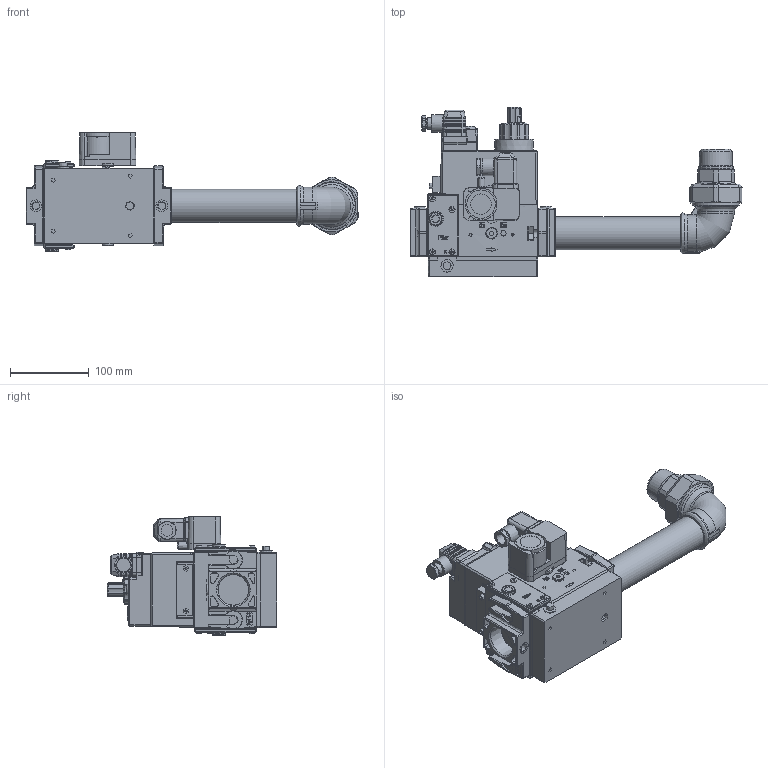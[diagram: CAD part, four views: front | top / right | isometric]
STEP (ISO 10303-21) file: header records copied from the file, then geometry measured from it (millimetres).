
FILE_DESCRIPTION (( 'STEP AP214' ), '1' );
FILE_NAME ('19990557.STEP', '2022-12-16T10:06:25', ( '' ), ( '' ), 'SwSTEP 2.0', 'SolidWorks 2021', '' );
FILE_SCHEMA (( 'AUTOMOTIVE_DESIGN' ));
Length unit declared in the file: millimetre
Products named in the file (1): 19990557
Bounding box: 421.9 x 215 x 150.2 mm (x, y, z)
Surface area: 319941.5 mm2 (no closed solid volume)
Topology: 0 solids, 14 shells, 3240 faces, 8197 edges, 5189 vertices
Faces by surface type: plane 1532, bspline 816, cylinder 633, cone 133, torus 115, sphere 11
Full cylindrical faces by diameter (mm): 2 x1, 2.459 x1, 2.5 x2, 3 x1, 4 x3, 4.5 x2, 7 x3, 8 x5, 9 x1, 10.6 x1, 11 x1, 13 x1, 14 x2, 15 x10, 15.2 x1, 18 x1, 22.5 x2, 26 x1, 35.9 x1, 36.15 x1, 38.952 x1, 42.4 x1, 43 x1, 52.7 x1, 53 x1, 56 x1, 59.61 x1
Entity records: 173036 total; most frequent: CARTESIAN_POINT 67839, ORIENTED_EDGE 15829, DIRECTION 11335, EDGE_CURVE 7922, VERTEX_POINT 5117, LINE 4243, VECTOR 4243, EDGE_LOOP 3668
